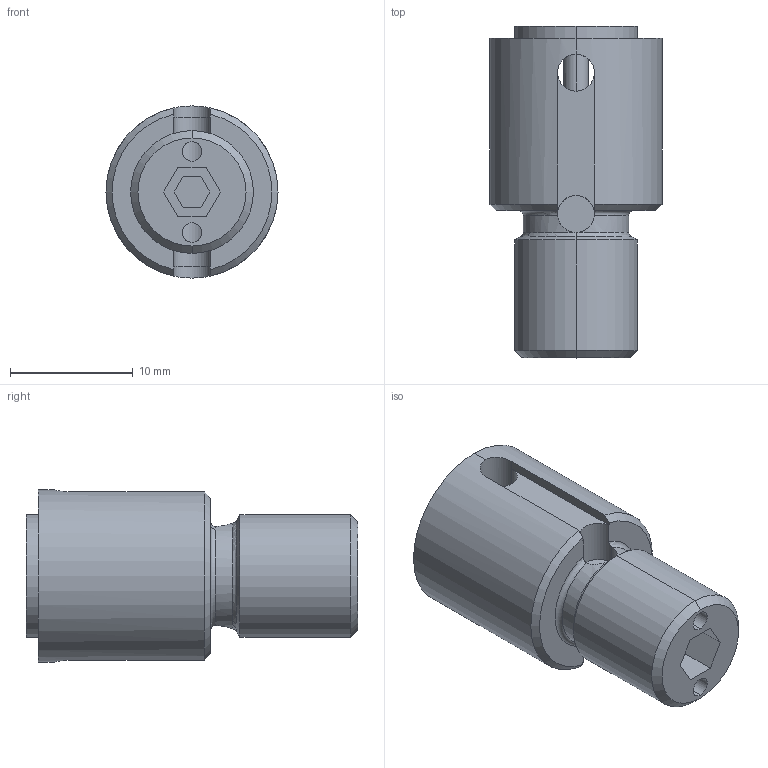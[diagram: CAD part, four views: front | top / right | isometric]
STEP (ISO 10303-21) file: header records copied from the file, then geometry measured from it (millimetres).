
FILE_DESCRIPTION (( 'STEP AP203' ), '1' );
FILE_NAME ('SGDA-1410.STEP', '2018-07-25T14:40:00', ( 'Balzi' ), ( '' ), 'SwSTEP 2.0', 'SolidWorks 2017', '' );
FILE_SCHEMA (( 'CONFIG_CONTROL_DESIGN' ));
Length unit declared in the file: millimetre
Products named in the file (1): SGDA-1410
Bounding box: 14 x 27 x 14 mm (x, y, z)
Volume: 2820.8 mm3; surface area: 1711.9 mm2
Topology: 1 solids, 1 shells, 96 faces, 258 edges, 168 vertices
Faces by surface type: plane 48, cylinder 38, cone 6, torus 4
Entity records: 3299 total; most frequent: CARTESIAN_POINT 805, ORIENTED_EDGE 512, DIRECTION 494, EDGE_CURVE 256, AXIS2_PLACEMENT_3D 173, VERTEX_POINT 166, VECTOR 148, LINE 148
